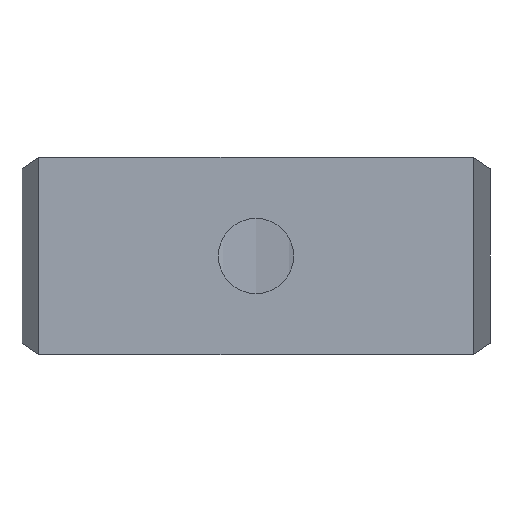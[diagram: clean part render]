
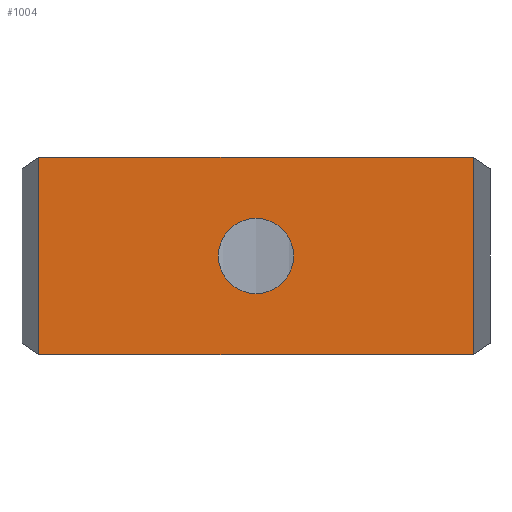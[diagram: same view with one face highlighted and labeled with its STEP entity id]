
A CAD part, front view. The second image highlights one B-rep face of the part: STEP entity #1004.
In plain terms, the highlighted planar face has unit normal (0, -1, 0).
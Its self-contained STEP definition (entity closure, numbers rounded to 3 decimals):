
#78 = EDGE_LOOP ( 'NONE', ( #3955, #1830, #2380, #3718 ) ) ;
#154 = VERTEX_POINT ( 'NONE', #362 ) ;
#242 = VERTEX_POINT ( 'NONE', #2881 ) ;
#268 = CIRCLE ( 'NONE', #330, 4. ) ;
#330 = AXIS2_PLACEMENT_3D ( 'NONE', #3890, #844, #1138 ) ;
#343 = CIRCLE ( 'NONE', #535, 4. ) ;
#345 = DIRECTION ( 'NONE',  ( 1., 0., 0. ) ) ;
#362 = CARTESIAN_POINT ( 'NONE',  ( 23.1, 0., -10.5 ) ) ;
#365 = DIRECTION ( 'NONE',  ( 0., -1., 0. ) ) ;
#393 = AXIS2_PLACEMENT_3D ( 'NONE', #3082, #365, #345 ) ;
#404 = CARTESIAN_POINT ( 'NONE',  ( 23.1, 0., 10.5 ) ) ;
#521 = VECTOR ( 'NONE', #1036, 1000. ) ;
#535 = AXIS2_PLACEMENT_3D ( 'NONE', #3690, #2163, #3386 ) ;
#554 = LINE ( 'NONE', #1433, #1672 ) ;
#665 = CARTESIAN_POINT ( 'NONE',  ( 23.1, 0., 10.5 ) ) ;
#737 = EDGE_CURVE ( 'NONE', #2138, #242, #268, .T. ) ;
#844 = DIRECTION ( 'NONE',  ( 0., 1., 0. ) ) ;
#911 = LINE ( 'NONE', #3382, #2394 ) ;
#972 = EDGE_CURVE ( 'NONE', #2355, #154, #3792, .T. ) ;
#1002 = VERTEX_POINT ( 'NONE', #3164 ) ;
#1004 = ADVANCED_FACE ( 'NONE', ( #3142, #3106 ), #1900, .T. ) ;
#1017 = DIRECTION ( 'NONE',  ( -1., 0., 0. ) ) ;
#1036 = DIRECTION ( 'NONE',  ( 0., 0., -1. ) ) ;
#1138 = DIRECTION ( 'NONE',  ( 0., 0., 1. ) ) ;
#1291 = VECTOR ( 'NONE', #1017, 1000. ) ;
#1302 = EDGE_LOOP ( 'NONE', ( #1643, #1538 ) ) ;
#1433 = CARTESIAN_POINT ( 'NONE',  ( 0., 0., -10.5 ) ) ;
#1538 = ORIENTED_EDGE ( 'NONE', *, *, #3371, .T. ) ;
#1591 = EDGE_CURVE ( 'NONE', #154, #3071, #554, .T. ) ;
#1643 = ORIENTED_EDGE ( 'NONE', *, *, #737, .T. ) ;
#1672 = VECTOR ( 'NONE', #2980, 1000. ) ;
#1830 = ORIENTED_EDGE ( 'NONE', *, *, #972, .F. ) ;
#1900 = PLANE ( 'NONE',  #393 ) ;
#2138 = VERTEX_POINT ( 'NONE', #2750 ) ;
#2163 = DIRECTION ( 'NONE',  ( 0., 1., 0. ) ) ;
#2355 = VERTEX_POINT ( 'NONE', #404 ) ;
#2380 = ORIENTED_EDGE ( 'NONE', *, *, #3688, .T. ) ;
#2394 = VECTOR ( 'NONE', #2961, 1000. ) ;
#2550 = CARTESIAN_POINT ( 'NONE',  ( 0., 0., 10.5 ) ) ;
#2628 = EDGE_CURVE ( 'NONE', #1002, #3071, #911, .T. ) ;
#2750 = CARTESIAN_POINT ( 'NONE',  ( 0., 0., 4. ) ) ;
#2881 = CARTESIAN_POINT ( 'NONE',  ( 0., 0., -4. ) ) ;
#2961 = DIRECTION ( 'NONE',  ( 0., 0., -1. ) ) ;
#2980 = DIRECTION ( 'NONE',  ( -1., 0., 0. ) ) ;
#3071 = VERTEX_POINT ( 'NONE', #3553 ) ;
#3082 = CARTESIAN_POINT ( 'NONE',  ( 0., 0., 10.5 ) ) ;
#3106 = FACE_OUTER_BOUND ( 'NONE', #78, .T. ) ;
#3142 = FACE_BOUND ( 'NONE', #1302, .T. ) ;
#3164 = CARTESIAN_POINT ( 'NONE',  ( -23.1, 0., 10.5 ) ) ;
#3371 = EDGE_CURVE ( 'NONE', #242, #2138, #343, .T. ) ;
#3382 = CARTESIAN_POINT ( 'NONE',  ( -23.1, 0., 10.5 ) ) ;
#3386 = DIRECTION ( 'NONE',  ( 0., 0., 1. ) ) ;
#3553 = CARTESIAN_POINT ( 'NONE',  ( -23.1, 0., -10.5 ) ) ;
#3688 = EDGE_CURVE ( 'NONE', #2355, #1002, #3797, .T. ) ;
#3690 = CARTESIAN_POINT ( 'NONE',  ( 0., 0., 0. ) ) ;
#3718 = ORIENTED_EDGE ( 'NONE', *, *, #2628, .T. ) ;
#3792 = LINE ( 'NONE', #665, #521 ) ;
#3797 = LINE ( 'NONE', #2550, #1291 ) ;
#3890 = CARTESIAN_POINT ( 'NONE',  ( 0., 0., 0. ) ) ;
#3955 = ORIENTED_EDGE ( 'NONE', *, *, #1591, .F. ) ;
